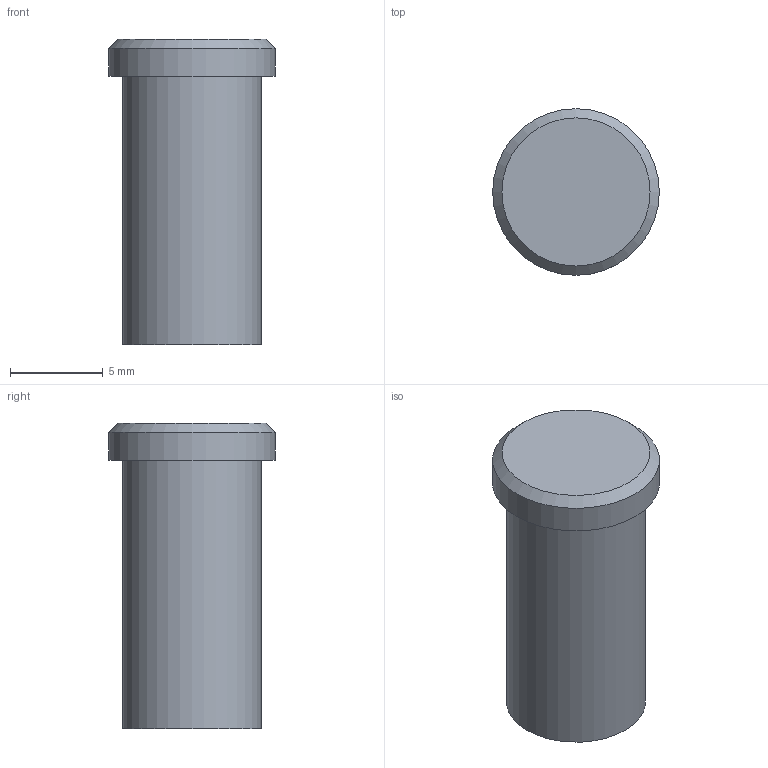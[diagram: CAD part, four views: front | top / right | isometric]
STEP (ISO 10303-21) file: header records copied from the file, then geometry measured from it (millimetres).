
FILE_DESCRIPTION (( 'STEP AP214' ), '1' );
FILE_NAME ('ﾂﾇﾊﾂ01ﾀ.STEP', '2021-05-19T08:07:39', ( '' ), ( '' ), 'SwSTEP 2.0', 'SolidWorks 2018', '' );
FILE_SCHEMA (( 'AUTOMOTIVE_DESIGN' ));
Length unit declared in the file: millimetre
Products named in the file (1): ﾂﾇﾊﾂ01ﾀ
Bounding box: 9 x 9 x 16.5 mm (x, y, z)
Volume: 764.4 mm3; surface area: 516.8 mm2
Topology: 1 solids, 1 shells, 6 faces, 8 edges, 5 vertices
Faces by surface type: plane 3, cylinder 2, cone 1
Full cylindrical faces by diameter (mm): 7.5 x1, 9 x1
Entity records: 148 total; most frequent: DIRECTION 24, CARTESIAN_POINT 17, AXIS2_PLACEMENT_3D 12, ORIENTED_EDGE 10, EDGE_LOOP 10, FACE_OUTER_BOUND 8, ADVANCED_FACE 6, VERTEX_POINT 5
